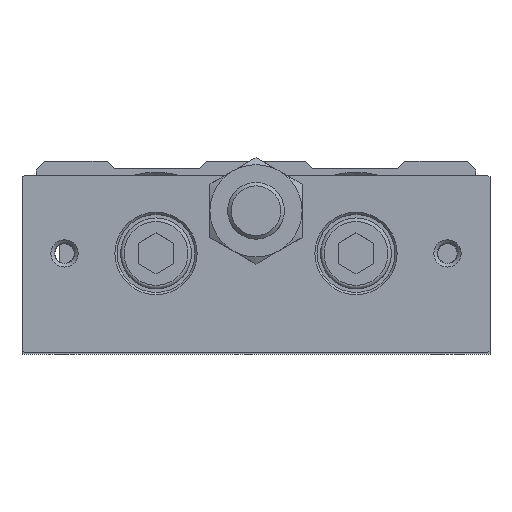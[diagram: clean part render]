
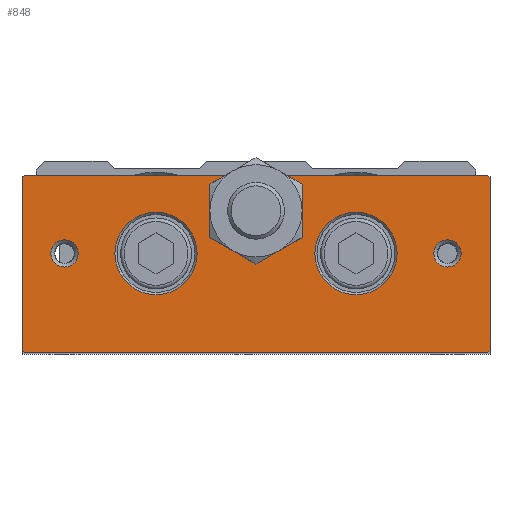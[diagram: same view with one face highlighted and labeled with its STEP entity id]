
A CAD part, top view. The second image highlights one B-rep face of the part: STEP entity #848.
In plain terms, the highlighted planar face has unit normal (0, 0, 1).
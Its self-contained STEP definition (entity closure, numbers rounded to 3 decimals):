
#629=CARTESIAN_POINT('',(-32.7,-14.5,95.0));
#630=VERTEX_POINT('',#629);
#637=CARTESIAN_POINT('',(-33.0,-14.2,95.0));
#638=VERTEX_POINT('',#637);
#639=CARTESIAN_POINT('',(-32.7,-14.5,95.0));
#640=DIRECTION('',(-0.707,0.707,0.0));
#641=VECTOR('',#640,0.424);
#642=LINE('',#639,#641);
#643=EDGE_CURVE('',#630,#638,#642,.T.);
#660=CARTESIAN_POINT('',(-33.0,10.2,95.0));
#661=VERTEX_POINT('',#660);
#662=CARTESIAN_POINT('',(-33.0,10.2,95.0));
#663=DIRECTION('',(0.0,-1.0,0.0));
#664=VECTOR('',#663,24.4);
#665=LINE('',#662,#664);
#666=EDGE_CURVE('',#661,#638,#665,.T.);
#696=CARTESIAN_POINT('',(0.0,-14.5,95.0));
#697=DIRECTION('',(0.0,0.0,1.0));
#698=DIRECTION('',(1.0,0.0,0.0));
#699=AXIS2_PLACEMENT_3D('',#696,#697,#698);
#700=PLANE('',#699);
#701=ORIENTED_EDGE('',*,*,#643,.F.);
#702=CARTESIAN_POINT('',(32.7,-14.5,95.0));
#703=VERTEX_POINT('',#702);
#704=CARTESIAN_POINT('',(-32.7,-14.5,95.0));
#705=DIRECTION('',(1.0,0.0,0.0));
#706=VECTOR('',#705,65.4);
#707=LINE('',#704,#706);
#708=EDGE_CURVE('',#630,#703,#707,.T.);
#709=ORIENTED_EDGE('',*,*,#708,.T.);
#710=CARTESIAN_POINT('',(33.0,-14.2,95.0));
#711=VERTEX_POINT('',#710);
#712=CARTESIAN_POINT('',(33.0,-14.2,95.0));
#713=DIRECTION('',(-0.707,-0.707,0.0));
#714=VECTOR('',#713,0.424);
#715=LINE('',#712,#714);
#716=EDGE_CURVE('',#711,#703,#715,.T.);
#717=ORIENTED_EDGE('',*,*,#716,.F.);
#718=CARTESIAN_POINT('',(33.0,10.2,95.0));
#719=VERTEX_POINT('',#718);
#720=CARTESIAN_POINT('',(33.0,-14.2,95.0));
#721=DIRECTION('',(0.0,1.0,0.0));
#722=VECTOR('',#721,24.4);
#723=LINE('',#720,#722);
#724=EDGE_CURVE('',#711,#719,#723,.T.);
#725=ORIENTED_EDGE('',*,*,#724,.T.);
#726=CARTESIAN_POINT('',(32.7,10.5,95.0));
#727=VERTEX_POINT('',#726);
#728=CARTESIAN_POINT('',(32.7,10.5,95.0));
#729=DIRECTION('',(0.707,-0.707,0.0));
#730=VECTOR('',#729,0.424);
#731=LINE('',#728,#730);
#732=EDGE_CURVE('',#727,#719,#731,.T.);
#733=ORIENTED_EDGE('',*,*,#732,.F.);
#734=CARTESIAN_POINT('',(4.153,10.5,95.0));
#735=VERTEX_POINT('',#734);
#736=CARTESIAN_POINT('',(32.7,10.5,95.0));
#737=DIRECTION('',(-1.0,0.0,0.0));
#738=VECTOR('',#737,28.547);
#739=LINE('',#736,#738);
#740=EDGE_CURVE('',#727,#735,#739,.T.);
#741=ORIENTED_EDGE('',*,*,#740,.T.);
#742=CARTESIAN_POINT('',(6.5,5.5,95.0));
#743=VERTEX_POINT('',#742);
#744=CARTESIAN_POINT('',(0.0,5.5,95.0));
#745=DIRECTION('',(0.0,0.0,1.0));
#746=DIRECTION('',(0.0,1.0,0.0));
#747=AXIS2_PLACEMENT_3D('',#744,#745,#746);
#748=CIRCLE('',#747,6.5);
#749=EDGE_CURVE('',#743,#735,#748,.T.);
#750=ORIENTED_EDGE('',*,*,#749,.F.);
#751=CARTESIAN_POINT('',(3.25,-0.129,95.0));
#752=VERTEX_POINT('',#751);
#753=CARTESIAN_POINT('',(0.0,5.5,95.0));
#754=DIRECTION('',(0.0,0.0,1.0));
#755=DIRECTION('',(0.0,1.0,0.0));
#756=AXIS2_PLACEMENT_3D('',#753,#754,#755);
#757=CIRCLE('',#756,6.5);
#758=EDGE_CURVE('',#752,#743,#757,.T.);
#759=ORIENTED_EDGE('',*,*,#758,.F.);
#760=CARTESIAN_POINT('',(-3.25,-0.129,95.0));
#761=VERTEX_POINT('',#760);
#762=CARTESIAN_POINT('',(0.0,5.5,95.0));
#763=DIRECTION('',(0.0,0.0,1.0));
#764=DIRECTION('',(0.0,1.0,0.0));
#765=AXIS2_PLACEMENT_3D('',#762,#763,#764);
#766=CIRCLE('',#765,6.5);
#767=EDGE_CURVE('',#761,#752,#766,.T.);
#768=ORIENTED_EDGE('',*,*,#767,.F.);
#769=CARTESIAN_POINT('',(-6.5,5.5,95.0));
#770=VERTEX_POINT('',#769);
#771=CARTESIAN_POINT('',(0.0,5.5,95.0));
#772=DIRECTION('',(0.0,0.0,1.0));
#773=DIRECTION('',(0.0,1.0,0.0));
#774=AXIS2_PLACEMENT_3D('',#771,#772,#773);
#775=CIRCLE('',#774,6.5);
#776=EDGE_CURVE('',#770,#761,#775,.T.);
#777=ORIENTED_EDGE('',*,*,#776,.F.);
#778=CARTESIAN_POINT('',(-4.153,10.5,95.0));
#779=VERTEX_POINT('',#778);
#780=CARTESIAN_POINT('',(0.0,5.5,95.0));
#781=DIRECTION('',(0.0,0.0,1.0));
#782=DIRECTION('',(0.0,1.0,0.0));
#783=AXIS2_PLACEMENT_3D('',#780,#781,#782);
#784=CIRCLE('',#783,6.5);
#785=EDGE_CURVE('',#779,#770,#784,.T.);
#786=ORIENTED_EDGE('',*,*,#785,.F.);
#787=CARTESIAN_POINT('',(-32.7,10.5,95.0));
#788=VERTEX_POINT('',#787);
#789=CARTESIAN_POINT('',(-4.153,10.5,95.0));
#790=DIRECTION('',(-1.0,0.0,0.0));
#791=VECTOR('',#790,28.547);
#792=LINE('',#789,#791);
#793=EDGE_CURVE('',#779,#788,#792,.T.);
#794=ORIENTED_EDGE('',*,*,#793,.T.);
#795=CARTESIAN_POINT('',(-33.0,10.2,95.0));
#796=DIRECTION('',(0.707,0.707,0.0));
#797=VECTOR('',#796,0.424);
#798=LINE('',#795,#797);
#799=EDGE_CURVE('',#661,#788,#798,.T.);
#800=ORIENTED_EDGE('',*,*,#799,.F.);
#801=ORIENTED_EDGE('',*,*,#666,.T.);
#802=EDGE_LOOP('',(#701,#709,#717,#725,#733,#741,#750,#759,#768,#777,#786,#794,#800,#801));
#803=FACE_OUTER_BOUND('',#802,.T.);
#804=CARTESIAN_POINT('',(19.9,-0.5,95.0));
#805=VERTEX_POINT('',#804);
#806=CARTESIAN_POINT('',(14.1,-0.5,95.0));
#807=DIRECTION('',(0.0,0.0,1.0));
#808=DIRECTION('',(-1.0,0.0,0.0));
#809=AXIS2_PLACEMENT_3D('',#806,#807,#808);
#810=CIRCLE('',#809,5.8);
#811=EDGE_CURVE('',#805,#805,#810,.T.);
#812=ORIENTED_EDGE('',*,*,#811,.F.);
#813=EDGE_LOOP('',(#812));
#814=FACE_BOUND('',#813,.T.);
#815=CARTESIAN_POINT('',(28.925,-0.5,95.0));
#816=VERTEX_POINT('',#815);
#817=CARTESIAN_POINT('',(27.,-0.5,95.0));
#818=DIRECTION('',(0.0,0.0,1.0));
#819=DIRECTION('',(-1.0,0.0,0.0));
#820=AXIS2_PLACEMENT_3D('',#817,#818,#819);
#821=CIRCLE('',#820,1.925);
#822=EDGE_CURVE('',#816,#816,#821,.T.);
#823=ORIENTED_EDGE('',*,*,#822,.F.);
#824=EDGE_LOOP('',(#823));
#825=FACE_BOUND('',#824,.T.);
#826=CARTESIAN_POINT('',(-25.075,-0.5,95.0));
#827=VERTEX_POINT('',#826);
#828=CARTESIAN_POINT('',(-27.0,-0.5,95.0));
#829=DIRECTION('',(0.0,0.0,1.0));
#830=DIRECTION('',(-1.0,0.0,0.0));
#831=AXIS2_PLACEMENT_3D('',#828,#829,#830);
#832=CIRCLE('',#831,1.925);
#833=EDGE_CURVE('',#827,#827,#832,.T.);
#834=ORIENTED_EDGE('',*,*,#833,.F.);
#835=EDGE_LOOP('',(#834));
#836=FACE_BOUND('',#835,.T.);
#837=CARTESIAN_POINT('',(-8.3,-0.5,95.0));
#838=VERTEX_POINT('',#837);
#839=CARTESIAN_POINT('',(-14.1,-0.5,95.0));
#840=DIRECTION('',(0.0,0.0,1.0));
#841=DIRECTION('',(-1.0,0.0,0.0));
#842=AXIS2_PLACEMENT_3D('',#839,#840,#841);
#843=CIRCLE('',#842,5.8);
#844=EDGE_CURVE('',#838,#838,#843,.T.);
#845=ORIENTED_EDGE('',*,*,#844,.F.);
#846=EDGE_LOOP('',(#845));
#847=FACE_BOUND('',#846,.T.);
#848=ADVANCED_FACE('',(#803,#814,#825,#836,#847),#700,.T.);
